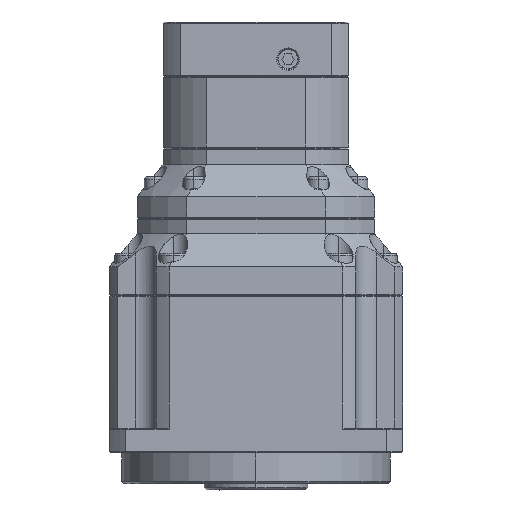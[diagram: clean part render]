
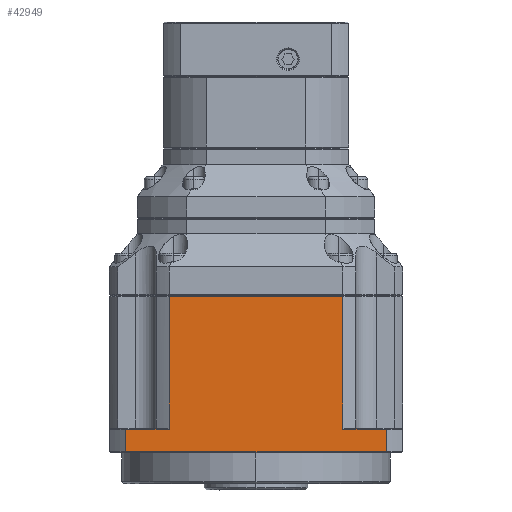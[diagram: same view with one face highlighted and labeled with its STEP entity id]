
A CAD part, left-side view. The second image highlights one B-rep face of the part: STEP entity #42949.
In plain terms, the highlighted planar face has unit normal (-1, 0, 0).
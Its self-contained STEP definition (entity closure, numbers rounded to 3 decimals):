
#469 = VERTEX_POINT ( 'NONE', #18510 ) ;
#1231 = ORIENTED_EDGE ( 'NONE', *, *, #64769, .T. ) ;
#5003 = DIRECTION ( 'NONE',  ( 0., 1., 0. ) ) ;
#5625 = VECTOR ( 'NONE', #5003, 1000. ) ;
#6075 = DIRECTION ( 'NONE',  ( 0., 0., -1. ) ) ;
#6964 = VECTOR ( 'NONE', #6075, 1000. ) ;
#11726 = VECTOR ( 'NONE', #68487, 1000. ) ;
#11885 = VECTOR ( 'NONE', #98729, 1000. ) ;
#13724 = CARTESIAN_POINT ( 'NONE',  ( -71., 63.119, 38. ) ) ;
#14113 = LINE ( 'NONE', #38170, #11726 ) ;
#18030 = CARTESIAN_POINT ( 'NONE',  ( -71., -63.119, 11.5 ) ) ;
#18510 = CARTESIAN_POINT ( 'NONE',  ( -71., 63.119, 11.5 ) ) ;
#18523 = ORIENTED_EDGE ( 'NONE', *, *, #95954, .F. ) ;
#19689 = LINE ( 'NONE', #83175, #37593 ) ;
#24616 = EDGE_CURVE ( 'NONE', #59074, #469, #25895, .T. ) ;
#25895 = LINE ( 'NONE', #42633, #5625 ) ;
#27130 = ORIENTED_EDGE ( 'NONE', *, *, #96449, .T. ) ;
#27249 = CARTESIAN_POINT ( 'NONE',  ( -71., -42.015, 11.5 ) ) ;
#29602 = LINE ( 'NONE', #13724, #6964 ) ;
#31972 = EDGE_CURVE ( 'NONE', #66093, #52901, #92305, .T. ) ;
#33059 = VERTEX_POINT ( 'NONE', #27249 ) ;
#34583 = LINE ( 'NONE', #91035, #11885 ) ;
#34751 = CARTESIAN_POINT ( 'NONE',  ( -71., 42.015, 75.5 ) ) ;
#35089 = DIRECTION ( 'NONE',  ( 1., 0., 0. ) ) ;
#37593 = VECTOR ( 'NONE', #82519, 1000. ) ;
#38170 = CARTESIAN_POINT ( 'NONE',  ( -71., 0., 11.5 ) ) ;
#38174 = VECTOR ( 'NONE', #48939, 1000. ) ;
#40787 = FACE_OUTER_BOUND ( 'NONE', #70557, .T. ) ;
#41431 = VERTEX_POINT ( 'NONE', #58805 ) ;
#41592 = DIRECTION ( 'NONE',  ( 0., -1., 0. ) ) ;
#42633 = CARTESIAN_POINT ( 'NONE',  ( -71., 0., 11.5 ) ) ;
#42949 = ADVANCED_FACE ( 'NONE', ( #40787 ), #95838, .F. ) ;
#47126 = CARTESIAN_POINT ( 'NONE',  ( -71., -63.119, 0.5 ) ) ;
#47573 = CARTESIAN_POINT ( 'NONE',  ( -71., 42.015, 11.5 ) ) ;
#48268 = CARTESIAN_POINT ( 'NONE',  ( -71., -42.015, 38. ) ) ;
#48939 = DIRECTION ( 'NONE',  ( 0., 0., 1. ) ) ;
#52901 = VERTEX_POINT ( 'NONE', #80086 ) ;
#55687 = ORIENTED_EDGE ( 'NONE', *, *, #71503, .T. ) ;
#58805 = CARTESIAN_POINT ( 'NONE',  ( -71., 63.119, 0.5 ) ) ;
#59074 = VERTEX_POINT ( 'NONE', #47573 ) ;
#64769 = EDGE_CURVE ( 'NONE', #93898, #98687, #19689, .T. ) ;
#66093 = VERTEX_POINT ( 'NONE', #34751 ) ;
#68487 = DIRECTION ( 'NONE',  ( 0., 1., 0. ) ) ;
#70557 = EDGE_LOOP ( 'NONE', ( #1231, #27130, #93764, #98039, #18523, #81959, #55687, #95098 ) ) ;
#70615 = CARTESIAN_POINT ( 'NONE',  ( -71., 0., 0.5 ) ) ;
#71503 = EDGE_CURVE ( 'NONE', #469, #41431, #29602, .T. ) ;
#71976 = VECTOR ( 'NONE', #41592, 1000. ) ;
#74567 = VECTOR ( 'NONE', #78352, 1000. ) ;
#75419 = EDGE_CURVE ( 'NONE', #33059, #52901, #81184, .T. ) ;
#77519 = EDGE_CURVE ( 'NONE', #41431, #93898, #94909, .T. ) ;
#78352 = DIRECTION ( 'NONE',  ( 0., -1., 0. ) ) ;
#80086 = CARTESIAN_POINT ( 'NONE',  ( -71., -42.015, 75.5 ) ) ;
#80814 = CARTESIAN_POINT ( 'NONE',  ( -71., -63.119, 0.5 ) ) ;
#81184 = LINE ( 'NONE', #48268, #38174 ) ;
#81959 = ORIENTED_EDGE ( 'NONE', *, *, #24616, .T. ) ;
#82519 = DIRECTION ( 'NONE',  ( 0., 0., 1. ) ) ;
#83175 = CARTESIAN_POINT ( 'NONE',  ( -71., -63.119, 38. ) ) ;
#88507 = DIRECTION ( 'NONE',  ( 0., 1., 0. ) ) ;
#91035 = CARTESIAN_POINT ( 'NONE',  ( -71., 42.015, 43.308 ) ) ;
#92305 = LINE ( 'NONE', #95072, #71976 ) ;
#93639 = AXIS2_PLACEMENT_3D ( 'NONE', #80814, #35089, #88507 ) ;
#93764 = ORIENTED_EDGE ( 'NONE', *, *, #75419, .T. ) ;
#93898 = VERTEX_POINT ( 'NONE', #47126 ) ;
#94909 = LINE ( 'NONE', #70615, #74567 ) ;
#95072 = CARTESIAN_POINT ( 'NONE',  ( -71., 0., 75.5 ) ) ;
#95098 = ORIENTED_EDGE ( 'NONE', *, *, #77519, .T. ) ;
#95838 = PLANE ( 'NONE',  #93639 ) ;
#95954 = EDGE_CURVE ( 'NONE', #59074, #66093, #34583, .T. ) ;
#96449 = EDGE_CURVE ( 'NONE', #98687, #33059, #14113, .T. ) ;
#98039 = ORIENTED_EDGE ( 'NONE', *, *, #31972, .F. ) ;
#98687 = VERTEX_POINT ( 'NONE', #18030 ) ;
#98729 = DIRECTION ( 'NONE',  ( 0., 0., 1. ) ) ;
